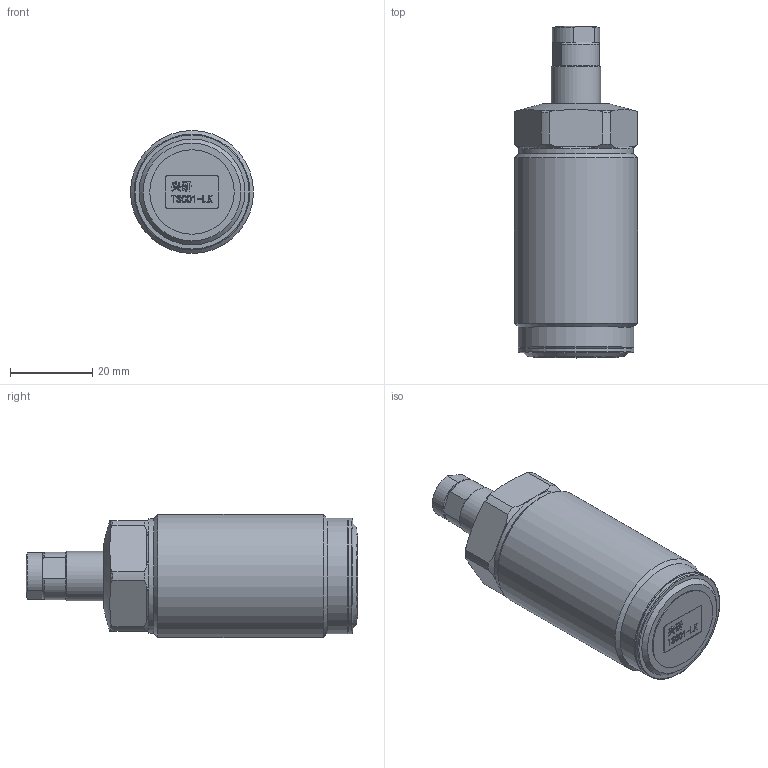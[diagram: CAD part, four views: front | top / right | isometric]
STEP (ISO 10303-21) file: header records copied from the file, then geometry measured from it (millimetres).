
FILE_DESCRIPTION(/* description */ (''),/* implementation_level */ '2;1');
FILE_NAME(/* name */ 'TSC01-LK.stp',/* time_stamp */ '2022-05-04T14:43:04+08:00',/* author */ (''),/* organization */ (''),/* preprocessor_version */ 'ST-DEVELOPER v16.7',/* originating_system */ 'SIEMENS PLM Software NX 12.0',/* authorisation */ '');
FILE_SCHEMA (('AUTOMOTIVE_DESIGN { 1 0 10303 214 3 1 1 1 }'));
Length unit declared in the file: millimetre
Products named in the file (1): TSC01-LK
Bounding box: 30 x 80.94 x 30 mm (x, y, z)
Volume: 43198.1 mm3; surface area: 9753.6 mm2
Topology: 3 solids, 3 shells, 254 faces, 654 edges, 429 vertices
Faces by surface type: plane 132, extrusion 60, cylinder 32, torus 15, cone 14, sphere 1
Full cylindrical faces by diameter (mm): 4.3 x1, 6 x1, 8 x2, 8.3 x1, 12 x2, 20.58 x1, 28 x1, 28.2 x2, 30 x1
Entity records: 9938 total; most frequent: CARTESIAN_POINT 2908, ORIENTED_EDGE 1244, DIRECTION 980, EDGE_CURVE 622, VECTOR 430, VERTEX_POINT 426, LINE 370, EDGE_LOOP 306
